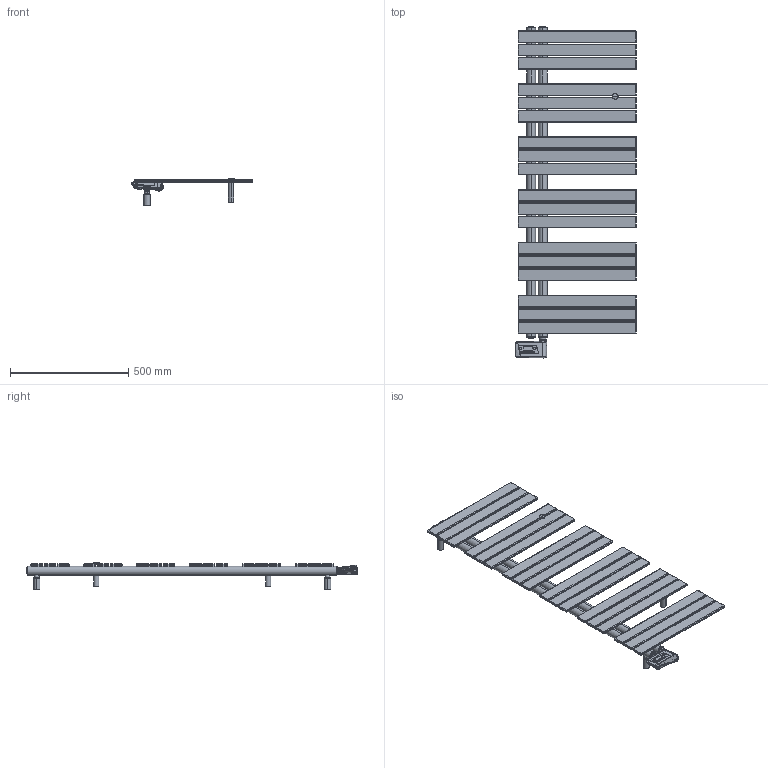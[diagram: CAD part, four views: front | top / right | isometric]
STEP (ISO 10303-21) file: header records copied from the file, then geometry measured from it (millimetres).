
FILE_DESCRIPTION((''),'2;1');
FILE_NAME('3581726100200_3D_SITO_ASM','2023-10-16T15:15:02',('PC132'),(''),'CREO PARAMETRIC BY PTC INC, 2023092','CREO PARAMETRIC BY PTC INC, 2023092','');
FILE_SCHEMA(('AUTOMOTIVE_DESIGN { 1 0 10303 214 1 1 1 1 }'));
Products named in the file (6): 2551720500002_3D_SITO; 1010181240001; 1117000001006; BOTT_GIUNTO_KELLY_RAD50X10; 1035270000042; 3581726100200_3D_SITO_ASM
Assembly tree (7 placements, depth 2):
  3581726100200_3D_SITO_ASM
    2551720500002_3D_SITO
    1010181240001  x3
    1117000001006
    BOTT_GIUNTO_KELLY_RAD50X10
    1035270000042
Bounding box: 511 x 1406.49 x 115.5 mm (x, y, z)
Volume: 7648962 mm3; surface area: 1511727.3 mm2
Topology: 29 solids, 33 shells, 1627 faces, 4060 edges, 2508 vertices
Faces by surface type: plane 608, cylinder 542, bspline 321, torus 69, cone 57, extrusion 18, sphere 12
Entity records: 119592 total; most frequent: CARTESIAN_POINT 67825, ORIENTED_EDGE 7689, DIRECTION 6812, PRESENTATION_STYLE_ASSIGNMENT 3922, EDGE_CURVE 3865, STYLED_ITEM 3794, CURVE_STYLE 3767, AXIS2_PLACEMENT_3D 2463
